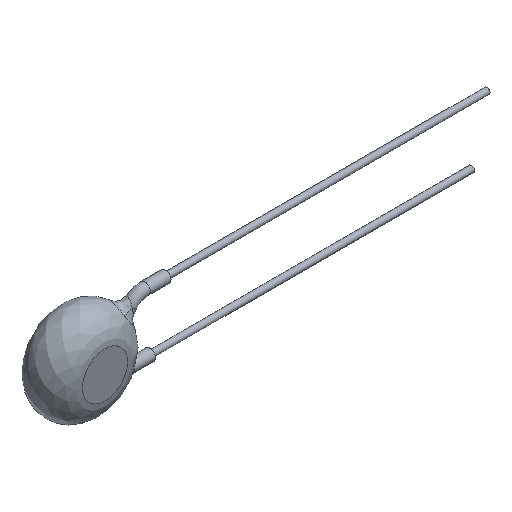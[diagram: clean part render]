
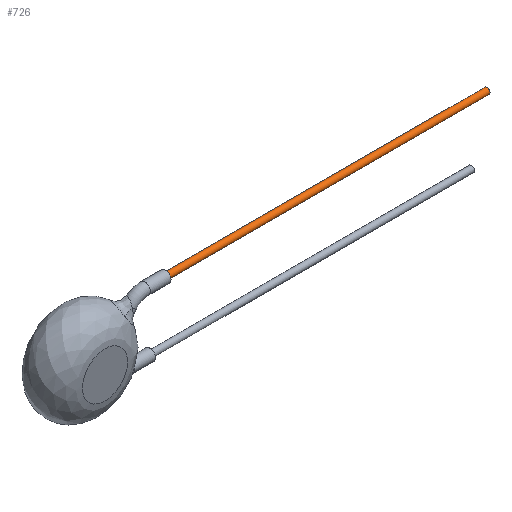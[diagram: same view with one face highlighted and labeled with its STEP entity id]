
A CAD part, isometric view. The second image highlights one B-rep face of the part: STEP entity #726.
In plain terms, the highlighted cylindrical face has radius 0.3 mm (diameter 0.6 mm), a full revolution.
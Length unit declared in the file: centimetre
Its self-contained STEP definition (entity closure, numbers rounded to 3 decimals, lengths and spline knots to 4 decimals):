
#677=CARTESIAN_POINT('',(0.775,-0.03,0.345));
#678=VERTEX_POINT('',#677);
#679=CARTESIAN_POINT('',(0.775,-0.03,0.375));
#680=DIRECTION('',(1.0,0.0,0.0));
#681=DIRECTION('',(0.0,1.0,0.0));
#682=AXIS2_PLACEMENT_3D('',#679,#680,#681);
#683=CIRCLE('',#682,0.03);
#684=EDGE_CURVE('',#678,#678,#683,.T.);
#707=CARTESIAN_POINT('',(3.975,-0.03,0.375));
#708=DIRECTION('',(-1.0,0.,0.));
#709=DIRECTION('',(0.0,1.0,0.0));
#710=AXIS2_PLACEMENT_3D('',#707,#708,#709);
#711=CYLINDRICAL_SURFACE('',#710,0.03);
#712=ORIENTED_EDGE('',*,*,#684,.T.);
#713=EDGE_LOOP('',(#712));
#714=FACE_OUTER_BOUND('',#713,.T.);
#715=CARTESIAN_POINT('',(3.975,-0.06,0.375));
#716=VERTEX_POINT('',#715);
#717=CARTESIAN_POINT('',(3.975,-0.03,0.375));
#718=DIRECTION('',(1.0,0.0,0.0));
#719=DIRECTION('',(0.0,1.0,0.0));
#720=AXIS2_PLACEMENT_3D('',#717,#718,#719);
#721=CIRCLE('',#720,0.03);
#722=EDGE_CURVE('',#716,#716,#721,.T.);
#723=ORIENTED_EDGE('',*,*,#722,.F.);
#724=EDGE_LOOP('',(#723));
#725=FACE_BOUND('',#724,.T.);
#726=ADVANCED_FACE('',(#714,#725),#711,.T.);
